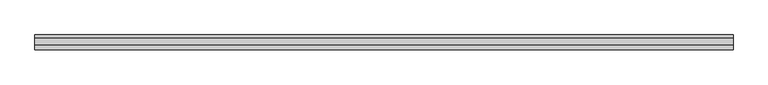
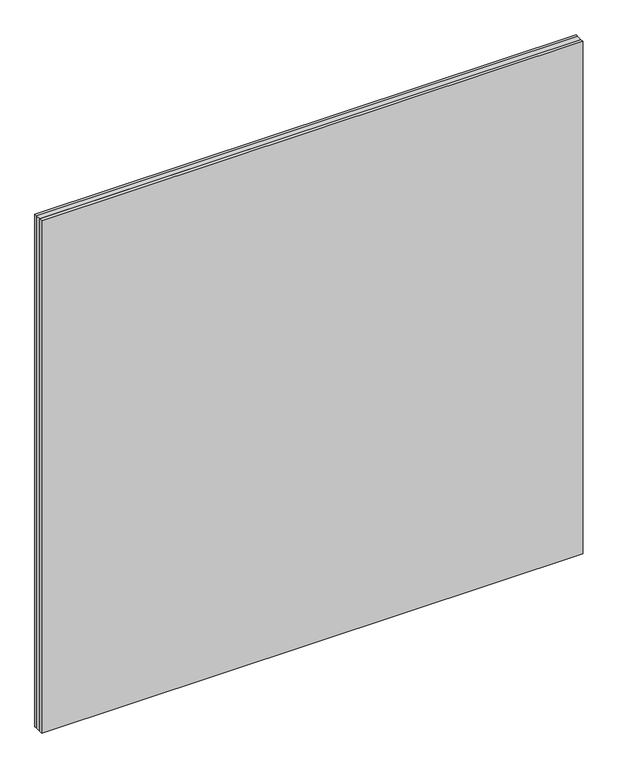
"""IFC4 building model written with IfcOpenShell, lengths in millimetres: plate geometry, 2014_Panel-Cristal-MC_SGG_COOL-LITE-KNT 140 : CLIMALIT PLUS con COOL LITE KNT 140 F2 6 (16 argon90%) 44.2."""

from ifc_helpers import new_model, si_unit, frame, origin, place, context, project, spatial, polyline, outline, extrude, source, transform, mapped, element, save


def plate_e0fb009f(model_context):
    return source(origin(), model_context, "Body", "SweptSolid", [
        extrude(outline(polyline([(730.0, 32.4), (730.0, 26.4), (-730.0, 26.4), (-730.0, 32.4), (730.0, 32.4)])), frame((0.0, 0.0, -20.0), z_axis=(0.0, 0.0, 1.0), x_axis=(1.0, 0.0, 0.0)), (0.0, 0.0, 1.0), 1460.0),
        extrude(outline(polyline([(-730.0, 10.4), (730.0, 10.4), (730.0, 1.6), (-730.0, 1.6), (-730.0, 10.4)])), frame((0.0, 0.0, -20.0), z_axis=(0.0, 0.0, 1.0), x_axis=(1.0, 0.0, 0.0)), (0.0, 0.0, 1.0), 1460.0),
        extrude(outline(polyline([(1440.0, -730.0), (-20.0, -730.0), (-20.0, 730.0), (1440.0, 730.0), (1440.0, -730.0)]), holes=[polyline([(1425.0, 715.0), (-5.0, 715.0), (-5.0, -715.0), (1425.0, -715.0), (1425.0, 715.0)])]), frame((0.0, 10.4, 0.0), z_axis=(0.0, 1.0, 0.0), x_axis=(0.0, 0.0, 1.0)), (0.0, 0.0, 1.0), 16.0),
    ])


if __name__ == "__main__":
    model = new_model("IFC4")
    model_context = context("Model", 3, world=origin())
    ifc_project = project(units=[si_unit("LENGTHUNIT", "METRE", prefix="MILLI")], contexts=[model_context])
    site = spatial("IfcSite", under=ifc_project)
    building = spatial("IfcBuilding", under=site)
    placement = place(None, origin())
    plate_shape = plate_e0fb009f(model_context)
    element("IfcPlate", 1, ObjectType="2014_Panel-Cristal-MC_SGG_COOL-LITE-KNT 140 : CLIMALIT PLUS con COOL LITE KNT 140 F2 6 (16 argon90%) 44.2", at=placement, inside=building, context=model_context, shape_type="MappedRepresentation", body=[
        mapped(plate_shape, transform((0.0, 0.0, 0.0), x_axis=(1.0, 0.0, 0.0), y_axis=(0.0, 1.0, 0.0), z_axis=(0.0, 0.0, 1.0))),
    ])
    save(model, "model.ifc")
